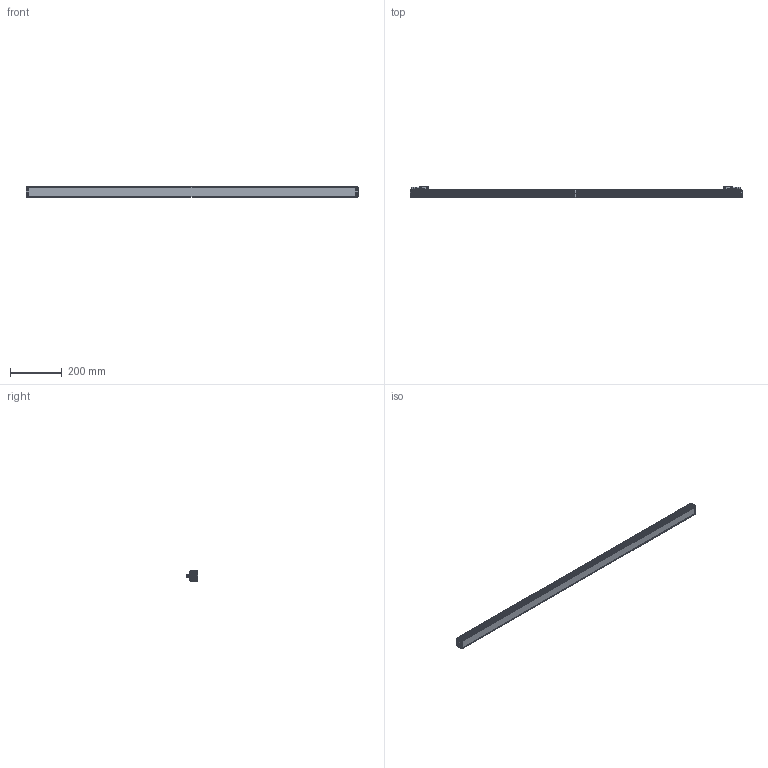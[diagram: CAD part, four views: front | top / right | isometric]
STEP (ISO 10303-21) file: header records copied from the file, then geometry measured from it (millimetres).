
FILE_DESCRIPTION((''),'2;1');
FILE_NAME('MV-LLDS-H-1400-40-W-PL_ASM','2024-04-08T14:44:40',('huguozhe'),(''),'CREO PARAMETRIC BY PTC INC, 2020044','CREO PARAMETRIC BY PTC INC, 2020044','');
FILE_SCHEMA(('AUTOMOTIVE_DESIGN { 1 0 10303 214 1 1 1 1 }'));
Length unit declared in the file: millimetre
Products named in the file (15): DE-15-001247; DE-15-001246_ASM; DE-15-000538; DE-15-000537_ASM; DE-12-002350; TIP-M3X4-4_5X5-SO-ET-07061033; DE-12-002350_ASM; DE-12-001628; SC-KM2X6-BNI-GB819; XIANLAN_HEAD; CABLE_HEAD; CABLE_HEAD_ASM_ASM; 190100852; SC-PM2X6B-JMP; MV-LLDS-H-1400-40-W-PL_ASM
Assembly tree (38 placements, depth 3):
  MV-LLDS-H-1400-40-W-PL_ASM
    DE-15-001246_ASM
      DE-15-001247
    DE-15-000537_ASM
      DE-15-000538
    DE-12-002350_ASM  x2
      DE-12-002350
      TIP-M3X4-4_5X5-SO-ET-07061033
    DE-12-001628
    SC-KM2X6-BNI-GB819  x8
    CABLE_HEAD_ASM_ASM  x2
      XIANLAN_HEAD
      CABLE_HEAD
    190100852  x8
    SC-PM2X6B-JMP  x8
Bounding box: 1278 x 42.65 x 40 mm (x, y, z)
Volume: 1189261.1 mm3; surface area: 591229.8 mm2
Topology: 37 solids, 81 shells, 3275 faces, 8391 edges, 5268 vertices
Faces by surface type: plane 1606, cylinder 717, bspline 480, cone 386, torus 68, sphere 16, extrusion 2
Entity records: 50879 total; most frequent: CARTESIAN_POINT 11981, ORIENTED_EDGE 6586, DIRECTION 6344, EDGE_CURVE 3333, VERTEX_POINT 2136, AXIS2_PLACEMENT_3D 2134, VECTOR 2076, LINE 2075
